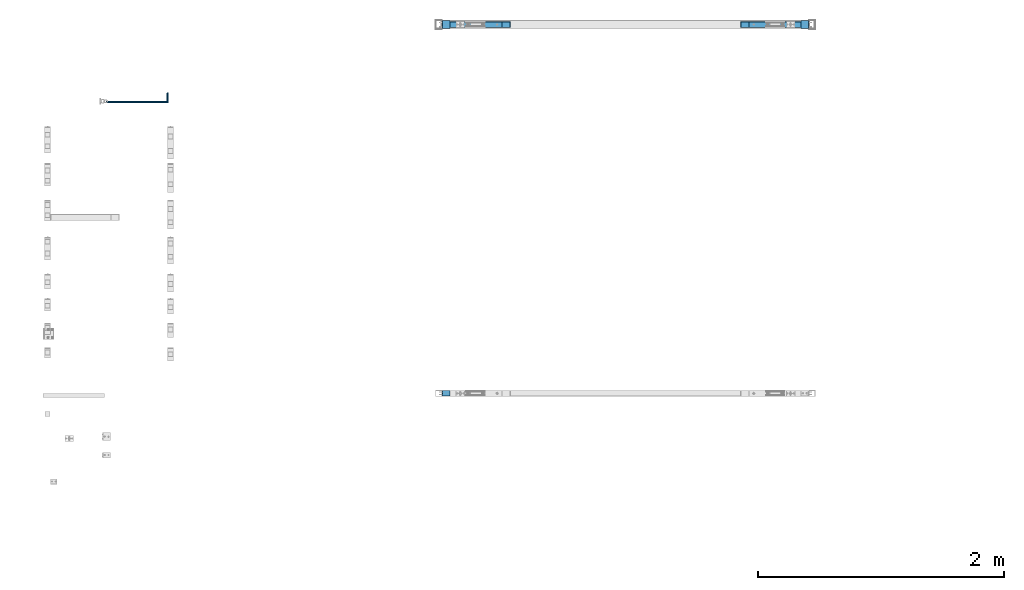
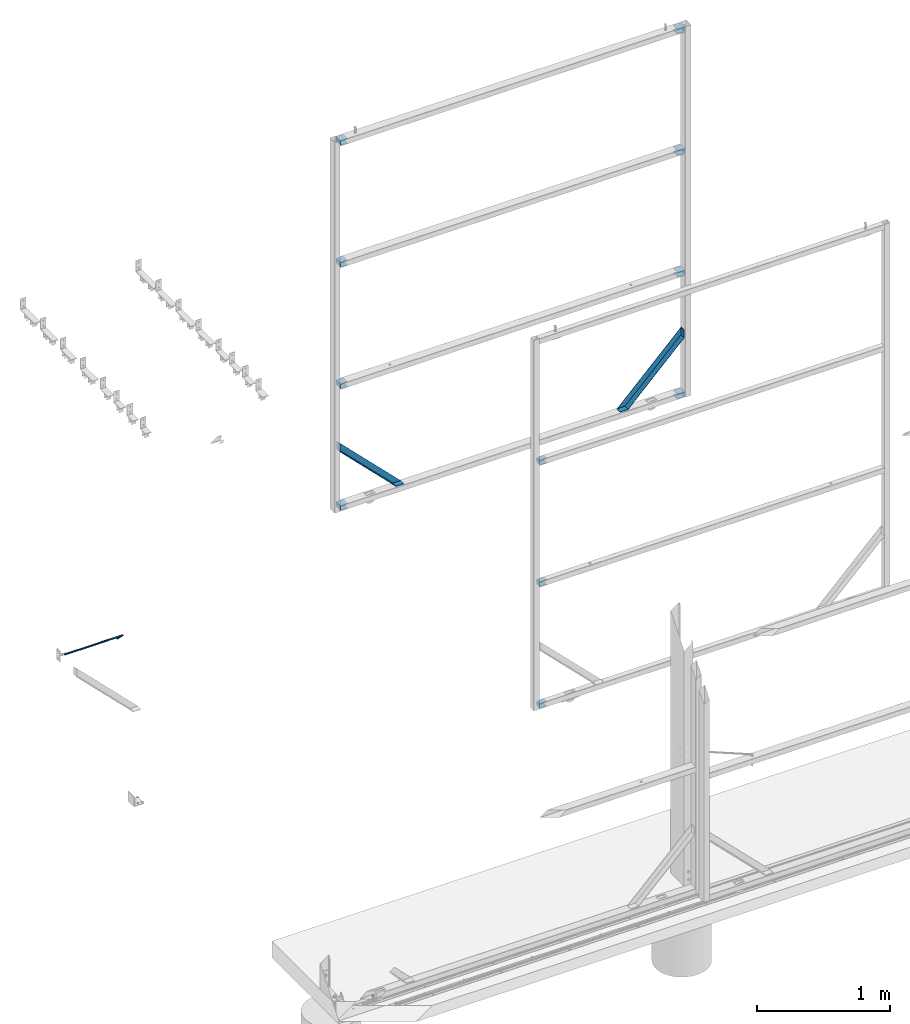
# One storey, part 89 of 91: 14 discrete accessories, 3 elements without a shape of their own.
"""IFC2X3 building model written with IfcOpenShell, lengths in millimetres."""

from ifc_helpers import new_model, si_unit, frame, origin_with_axes, place, context, subcontext, project, spatial, faceted_brep, material, type_object, element, aggregate, save


model = new_model("IFC2X3")

# Units and contexts
model_context = context("Model", 3, precision=1e-05, world=origin_with_axes())
body_context = subcontext(model_context, "Body", "Model", "MODEL_VIEW")
ifc_project = project(units=[si_unit("LENGTHUNIT", "METRE", prefix="MILLI"), si_unit("AREAUNIT", "SQUARE_METRE"), si_unit("VOLUMEUNIT", "CUBIC_METRE"), si_unit("MASSUNIT", "GRAM", prefix="KILO"), si_unit("TIMEUNIT", "SECOND"), si_unit("PLANEANGLEUNIT", "RADIAN"), si_unit("SOLIDANGLEUNIT", "STERADIAN"), si_unit("THERMODYNAMICTEMPERATUREUNIT", "DEGREE_CELSIUS"), si_unit("LUMINOUSINTENSITYUNIT", "LUMEN")], contexts=[model_context])

# Site, building, storey
site_placement = place(None, origin_with_axes())
site = spatial("IfcSite", under=ifc_project, at=site_placement, Name="Undefined", CompositionType="ELEMENT")
building_placement = place(site_placement, origin_with_axes())
building = spatial("IfcBuilding", under=site, at=building_placement, Name="Undefined", CompositionType="ELEMENT")
storey_placement = place(building_placement, origin_with_axes())
storey = spatial("IfcBuildingStorey", under=building, at=storey_placement, Name="Undefined", CompositionType="ELEMENT", Elevation=0.0)

# Assembly, discrete accessories
assembly_1_placement = place(storey_placement, origin_with_axes())
assembly_1 = element("IfcElementAssembly", 1, at=assembly_1_placement, inside=storey, Name="Sliding Door Beam", AssemblyPlace="NOTDEFINED", PredefinedType="RIGID_FRAME")
ifc_material_1 = material(Name="STEEL/450")
discrete_accessory_type_1 = type_object("IfcDiscreteAccessoryType", Name="PLATE")
discrete_accessory_1_placement = place(assembly_1_placement, frame((-113523.79, 90380.0, 28.5), z_axis=(0.0, -1.0, 0.0), x_axis=(-1.0, 0.0, 0.0)))
discrete_accessory_1 = element("IfcDiscreteAccessory", 2, at=discrete_accessory_1_placement, type_object=discrete_accessory_type_1, material=ifc_material_1, Name="PLATE", ObjectType="PLT3*44", context=body_context, shape_type="Brep", body=[
    faceted_brep([(0.0, 1.5, -22.0), (0.0, 1.5, 22.0), (56.0, 1.5, 22.0), (55.9999999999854, 1.5, -22.0), (0.0, -1.5, 22.0), (0.0, -1.5, -22.0), (56.0, -1.5, -22.0), (56.0, -1.5, 22.0), (59.0000000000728, 2.30384757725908, 22.0), (59.0000000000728, 2.30384757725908, -22.0), (60.5000000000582, -0.294228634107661, -22.0), (60.5000000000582, -0.294228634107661, 22.0), (63.794228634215, 2.99999999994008, -22.0), (63.794228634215, 2.99999999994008, 22.0), (61.1961524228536, 4.49999999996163, 22.0), (61.1961524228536, 4.49999999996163, -22.0), (65.0000000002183, 7.49999999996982, -22.0), (65.0000000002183, 7.49999999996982, 22.0), (62.0000000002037, 7.49999999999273, 22.0), (62.0, 7.5, -22.0), (62.0, 33.5, 22.0), (61.9999999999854, 33.4999999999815, -22.0), (65.0, 33.5, -22.0), (65.0, 33.5, 22.0), (61.1961524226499, 36.4999999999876, 22.0), (61.1961524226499, 36.4999999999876, -22.0), (63.7942286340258, 37.9999999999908, -22.0), (63.7942286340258, 37.9999999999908, 22.0), (60.4999999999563, 41.2942286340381, -22.0), (60.4999999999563, 41.2942286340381, 22.0), (58.9999999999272, 38.6961524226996, 22.0), (58.9999999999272, 38.6961524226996, -22.0), (55.9999999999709, 42.5000000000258, -22.0), (55.9999999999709, 42.5000000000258, 22.0), (55.9999999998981, 39.5000000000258, 22.0), (56.0, 39.5, -22.0), (0.0, 39.5, 22.0), (0.0, 39.5, -22.0), (0.0, 42.5, 22.0), (0.0, 42.5, -22.0)], [[[0, 1, 2, 3]], [[4, 5, 6, 7]], [[5, 4, 1, 0]], [[3, 2, 8, 9]], [[7, 6, 10, 11]], [[10, 12, 13, 11]], [[8, 14, 15, 9]], [[12, 16, 17, 13]], [[14, 18, 19, 15]], [[19, 18, 20, 21]], [[17, 16, 22, 23]], [[21, 20, 24, 25]], [[23, 22, 26, 27]], [[26, 28, 29, 27]], [[24, 30, 31, 25]], [[28, 32, 33, 29]], [[30, 34, 35, 31]], [[35, 34, 36, 37]], [[34, 30, 24, 20, 18, 14, 8, 2, 1, 4, 7, 11, 13, 17, 23, 27, 29, 33, 38, 36]], [[33, 32, 39, 38]], [[32, 28, 26, 22, 16, 12, 10, 6, 5, 0, 3, 9, 15, 19, 21, 25, 31, 35, 37, 39]], [[38, 39, 37, 36]]]),
])
discrete_accessory_2_placement = place(assembly_1_placement, frame((-113523.79, 90380.0, 1142.83666666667), z_axis=(0.0, -1.0, 0.0), x_axis=(-1.0, 0.0, 0.0)))
discrete_accessory_2 = element("IfcDiscreteAccessory", 3, at=discrete_accessory_2_placement, type_object=discrete_accessory_type_1, material=ifc_material_1, Name="PLATE", ObjectType="PLT3*44", context=body_context, shape_type="Brep", body=[
    faceted_brep([(0.0, 1.5, -22.0), (0.0, 1.5, 22.0), (56.0, 1.5, 22.0), (55.9999999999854, 1.5, -22.0), (0.0, -1.5, 22.0), (0.0, -1.5, -22.0), (56.0, -1.5, -22.0), (56.0, -1.5, 22.0), (59.0000000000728, 2.30384757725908, 22.0), (59.0000000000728, 2.30384757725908, -22.0), (60.5000000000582, -0.294228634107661, -22.0), (60.5000000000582, -0.294228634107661, 22.0), (63.794228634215, 2.99999999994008, -22.0), (63.794228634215, 2.99999999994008, 22.0), (61.1961524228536, 4.49999999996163, 22.0), (61.1961524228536, 4.49999999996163, -22.0), (65.0000000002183, 7.49999999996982, -22.0), (65.0000000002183, 7.49999999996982, 22.0), (62.0000000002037, 7.49999999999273, 22.0), (62.0, 7.5, -22.0), (62.0, 33.5, 22.0), (61.9999999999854, 33.4999999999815, -22.0), (65.0, 33.5, -22.0), (65.0, 33.5, 22.0), (61.1961524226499, 36.4999999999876, 22.0), (61.1961524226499, 36.4999999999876, -22.0), (63.7942286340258, 37.9999999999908, -22.0), (63.7942286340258, 37.9999999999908, 22.0), (60.4999999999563, 41.2942286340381, -22.0), (60.4999999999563, 41.2942286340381, 22.0), (58.9999999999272, 38.6961524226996, 22.0), (58.9999999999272, 38.6961524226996, -22.0), (55.9999999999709, 42.5000000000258, -22.0), (55.9999999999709, 42.5000000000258, 22.0), (55.9999999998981, 39.5000000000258, 22.0), (56.0, 39.5, -22.0), (0.0, 39.5, 22.0), (0.0, 39.5, -22.0), (0.0, 42.5, 22.0), (0.0, 42.5, -22.0)], [[[0, 1, 2, 3]], [[4, 5, 6, 7]], [[5, 4, 1, 0]], [[3, 2, 8, 9]], [[7, 6, 10, 11]], [[10, 12, 13, 11]], [[8, 14, 15, 9]], [[12, 16, 17, 13]], [[14, 18, 19, 15]], [[19, 18, 20, 21]], [[17, 16, 22, 23]], [[21, 20, 24, 25]], [[23, 22, 26, 27]], [[26, 28, 29, 27]], [[24, 30, 31, 25]], [[28, 32, 33, 29]], [[30, 34, 35, 31]], [[35, 34, 36, 37]], [[34, 30, 24, 20, 18, 14, 8, 2, 1, 4, 7, 11, 13, 17, 23, 27, 29, 33, 38, 36]], [[33, 32, 39, 38]], [[32, 28, 26, 22, 16, 12, 10, 6, 5, 0, 3, 9, 15, 19, 21, 25, 31, 35, 37, 39]], [[38, 39, 37, 36]]]),
])
discrete_accessory_3_placement = place(assembly_1_placement, frame((-113523.79, 90380.0, 2257.16333333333), z_axis=(0.0, -1.0, 0.0), x_axis=(-1.0, 0.0, 0.0)))
discrete_accessory_3 = element("IfcDiscreteAccessory", 4, at=discrete_accessory_3_placement, type_object=discrete_accessory_type_1, material=ifc_material_1, Name="PLATE", ObjectType="PLT3*44", context=body_context, shape_type="Brep", body=[
    faceted_brep([(0.0, 1.5, -22.0), (0.0, 1.5, 22.0), (56.0, 1.5, 22.0), (55.9999999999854, 1.5, -22.0), (0.0, -1.5, 22.0), (0.0, -1.5, -22.0), (56.0, -1.5, -22.0), (56.0, -1.5, 22.0), (59.0000000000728, 2.30384757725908, 22.0), (59.0000000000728, 2.30384757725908, -22.0), (60.5000000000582, -0.294228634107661, -22.0), (60.5000000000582, -0.294228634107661, 22.0), (63.794228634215, 2.99999999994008, -22.0), (63.794228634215, 2.99999999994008, 22.0), (61.1961524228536, 4.49999999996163, 22.0), (61.1961524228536, 4.49999999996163, -22.0), (65.0000000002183, 7.49999999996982, -22.0), (65.0000000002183, 7.49999999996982, 22.0), (62.0000000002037, 7.49999999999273, 22.0), (62.0, 7.5, -22.0), (62.0, 33.5, 22.0), (61.9999999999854, 33.4999999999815, -22.0), (65.0, 33.5, -22.0), (65.0, 33.5, 22.0), (61.1961524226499, 36.4999999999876, 22.0), (61.1961524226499, 36.4999999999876, -22.0), (63.7942286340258, 37.9999999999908, -22.0), (63.7942286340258, 37.9999999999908, 22.0), (60.4999999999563, 41.2942286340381, -22.0), (60.4999999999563, 41.2942286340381, 22.0), (58.9999999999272, 38.6961524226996, 22.0), (58.9999999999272, 38.6961524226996, -22.0), (55.9999999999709, 42.5000000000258, -22.0), (55.9999999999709, 42.5000000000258, 22.0), (55.9999999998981, 39.5000000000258, 22.0), (56.0, 39.5, -22.0), (0.0, 39.5, 22.0), (0.0, 39.5, -22.0), (0.0, 42.5, 22.0), (0.0, 42.5, -22.0)], [[[0, 1, 2, 3]], [[4, 5, 6, 7]], [[5, 4, 1, 0]], [[3, 2, 8, 9]], [[7, 6, 10, 11]], [[10, 12, 13, 11]], [[8, 14, 15, 9]], [[12, 16, 17, 13]], [[14, 18, 19, 15]], [[19, 18, 20, 21]], [[17, 16, 22, 23]], [[21, 20, 24, 25]], [[23, 22, 26, 27]], [[26, 28, 29, 27]], [[24, 30, 31, 25]], [[28, 32, 33, 29]], [[30, 34, 35, 31]], [[35, 34, 36, 37]], [[34, 30, 24, 20, 18, 14, 8, 2, 1, 4, 7, 11, 13, 17, 23, 27, 29, 33, 38, 36]], [[33, 32, 39, 38]], [[32, 28, 26, 22, 16, 12, 10, 6, 5, 0, 3, 9, 15, 19, 21, 25, 31, 35, 37, 39]], [[38, 39, 37, 36]]]),
])
aggregate(assembly_1, [discrete_accessory_1, discrete_accessory_2, discrete_accessory_3])

assembly_2_placement = place(storey_placement, origin_with_axes())
assembly_2 = element("IfcElementAssembly", 5, at=assembly_2_placement, inside=storey, Name="Sliding Door Beam", AssemblyPlace="NOTDEFINED", PredefinedType="RIGID_FRAME")
discrete_accessory_4_placement = place(assembly_2_placement, frame((-110666.29, 93380.0, 28.5), z_axis=(0.0, -1.0, 0.0), x_axis=(1.0, 0.0, 0.0)))
discrete_accessory_4 = element("IfcDiscreteAccessory", 6, at=discrete_accessory_4_placement, type_object=discrete_accessory_type_1, material=ifc_material_1, Name="PLATE", ObjectType="PLT3*65", context=body_context, shape_type="Brep", body=[
    faceted_brep([(0.0, 1.5, -32.5), (0.0, 1.5, 32.5), (56.0, 1.5, 32.5), (55.9999999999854, 1.5, -32.5), (0.0, -1.5, 32.5), (0.0, -1.5, -32.5), (56.0, -1.5, -32.5), (56.0, -1.5, 32.5), (60.5000000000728, 0.29422863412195, 32.5), (60.5000000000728, 0.29422863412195, -32.5), (59.0000000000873, -2.30384757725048, -32.5), (59.0000000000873, -2.30384757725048, 32.5), (61.1961524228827, -4.49999999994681, -32.5), (61.1961524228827, -4.49999999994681, 32.5), (63.7942286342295, -2.99999999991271, 32.5), (63.7942286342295, -2.99999999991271, -32.5), (62.0000000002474, -7.49999999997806, -32.5), (62.0000000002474, -7.49999999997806, 32.5), (65.0000000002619, -7.49999999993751, 32.5), (65.0, -7.5, -32.5), (65.0, -33.5, 32.5), (65.0000000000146, -33.5000000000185, -32.5), (62.0, -33.5, -32.5), (62.0, -33.5, 32.5), (63.7942286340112, -37.9999999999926, 32.5), (63.7942286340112, -37.9999999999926, -32.5), (61.1961524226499, -36.4999999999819, -32.5), (61.1961524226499, -36.4999999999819, 32.5), (58.9999999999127, -38.6961524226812, -32.5), (58.9999999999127, -38.6961524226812, 32.5), (60.4999999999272, -41.2942286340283, 32.5), (60.4999999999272, -41.2942286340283, -32.5), (55.9999999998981, -39.4999999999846, -32.5), (55.9999999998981, -39.4999999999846, 32.5), (55.9999999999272, -42.4999999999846, 32.5), (56.0, -42.5, -32.5), (0.0, -42.5, 32.5), (0.0, -42.5, -32.5), (0.0, -39.5, 32.5), (0.0, -39.5, -32.5)], [[[0, 1, 2, 3]], [[4, 5, 6, 7]], [[5, 4, 1, 0]], [[3, 2, 8, 9]], [[7, 6, 10, 11]], [[10, 12, 13, 11]], [[8, 14, 15, 9]], [[12, 16, 17, 13]], [[14, 18, 19, 15]], [[19, 18, 20, 21]], [[17, 16, 22, 23]], [[21, 20, 24, 25]], [[23, 22, 26, 27]], [[26, 28, 29, 27]], [[24, 30, 31, 25]], [[28, 32, 33, 29]], [[30, 34, 35, 31]], [[35, 34, 36, 37]], [[34, 30, 24, 20, 18, 14, 8, 2, 1, 4, 7, 11, 13, 17, 23, 27, 29, 33, 38, 36]], [[33, 32, 39, 38]], [[32, 28, 26, 22, 16, 12, 10, 6, 5, 0, 3, 9, 15, 19, 21, 25, 31, 35, 37, 39]], [[38, 39, 37, 36]]]),
])
discrete_accessory_5_placement = place(assembly_2_placement, frame((-113523.79, 93380.0, 28.5), z_axis=(0.0, -1.0, 0.0), x_axis=(-1.0, 0.0, 0.0)))
discrete_accessory_5 = element("IfcDiscreteAccessory", 7, at=discrete_accessory_5_placement, type_object=discrete_accessory_type_1, material=ifc_material_1, Name="PLATE", ObjectType="PLT3*65", context=body_context, shape_type="Brep", body=[
    faceted_brep([(0.0, 1.5, -32.5), (0.0, 1.5, 32.5), (56.0, 1.5, 32.5), (55.9999999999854, 1.5, -32.5), (0.0, -1.5, 32.5), (0.0, -1.5, -32.5), (56.0, -1.5, -32.5), (56.0, -1.5, 32.5), (59.0000000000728, 2.30384757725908, 32.5), (59.0000000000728, 2.30384757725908, -32.5), (60.5000000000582, -0.294228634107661, -32.5), (60.5000000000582, -0.294228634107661, 32.5), (63.794228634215, 2.99999999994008, -32.5), (63.794228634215, 2.99999999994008, 32.5), (61.1961524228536, 4.49999999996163, 32.5), (61.1961524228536, 4.49999999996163, -32.5), (65.0000000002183, 7.49999999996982, -32.5), (65.0000000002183, 7.49999999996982, 32.5), (62.0000000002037, 7.49999999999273, 32.5), (62.0, 7.5, -32.5), (62.0, 33.5, 32.5), (61.9999999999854, 33.4999999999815, -32.5), (65.0, 33.5, -32.5), (65.0, 33.5, 32.5), (61.1961524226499, 36.4999999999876, 32.5), (61.1961524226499, 36.4999999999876, -32.5), (63.7942286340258, 37.9999999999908, -32.5), (63.7942286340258, 37.9999999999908, 32.5), (60.4999999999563, 41.2942286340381, -32.5), (60.4999999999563, 41.2942286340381, 32.5), (58.9999999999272, 38.6961524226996, 32.5), (58.9999999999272, 38.6961524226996, -32.5), (55.9999999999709, 42.5000000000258, -32.5), (55.9999999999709, 42.5000000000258, 32.5), (55.9999999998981, 39.5000000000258, 32.5), (56.0, 39.5, -32.5), (0.0, 39.5, 32.5), (0.0, 39.5, -32.5), (0.0, 42.5, 32.5), (0.0, 42.5, -32.5)], [[[0, 1, 2, 3]], [[4, 5, 6, 7]], [[5, 4, 1, 0]], [[3, 2, 8, 9]], [[7, 6, 10, 11]], [[10, 12, 13, 11]], [[8, 14, 15, 9]], [[12, 16, 17, 13]], [[14, 18, 19, 15]], [[19, 18, 20, 21]], [[17, 16, 22, 23]], [[21, 20, 24, 25]], [[23, 22, 26, 27]], [[26, 28, 29, 27]], [[24, 30, 31, 25]], [[28, 32, 33, 29]], [[30, 34, 35, 31]], [[35, 34, 36, 37]], [[34, 30, 24, 20, 18, 14, 8, 2, 1, 4, 7, 11, 13, 17, 23, 27, 29, 33, 38, 36]], [[33, 32, 39, 38]], [[32, 28, 26, 22, 16, 12, 10, 6, 5, 0, 3, 9, 15, 19, 21, 25, 31, 35, 37, 39]], [[38, 39, 37, 36]]]),
])
discrete_accessory_6_placement = place(assembly_2_placement, frame((-110666.29, 93380.0, 1142.83666666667), z_axis=(0.0, -1.0, 0.0), x_axis=(1.0, 0.0, 0.0)))
discrete_accessory_6 = element("IfcDiscreteAccessory", 8, at=discrete_accessory_6_placement, type_object=discrete_accessory_type_1, material=ifc_material_1, Name="PLATE", ObjectType="PLT3*65", context=body_context, shape_type="Brep", body=[
    faceted_brep([(0.0, 1.5, -32.5), (0.0, 1.5, 32.5), (56.0, 1.5, 32.5), (55.9999999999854, 1.5, -32.5), (0.0, -1.5, 32.5), (0.0, -1.5, -32.5), (56.0, -1.5, -32.5), (56.0, -1.5, 32.5), (60.5000000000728, 0.29422863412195, 32.5), (60.5000000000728, 0.29422863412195, -32.5), (59.0000000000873, -2.30384757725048, -32.5), (59.0000000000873, -2.30384757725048, 32.5), (61.1961524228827, -4.49999999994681, -32.5), (61.1961524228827, -4.49999999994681, 32.5), (63.7942286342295, -2.99999999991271, 32.5), (63.7942286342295, -2.99999999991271, -32.5), (62.0000000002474, -7.49999999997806, -32.5), (62.0000000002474, -7.49999999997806, 32.5), (65.0000000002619, -7.49999999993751, 32.5), (65.0, -7.5, -32.5), (65.0, -33.5, 32.5), (65.0000000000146, -33.5000000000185, -32.5), (62.0, -33.5, -32.5), (62.0, -33.5, 32.5), (63.7942286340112, -37.9999999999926, 32.5), (63.7942286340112, -37.9999999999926, -32.5), (61.1961524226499, -36.4999999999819, -32.5), (61.1961524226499, -36.4999999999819, 32.5), (58.9999999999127, -38.6961524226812, -32.5), (58.9999999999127, -38.6961524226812, 32.5), (60.4999999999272, -41.2942286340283, 32.5), (60.4999999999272, -41.2942286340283, -32.5), (55.9999999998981, -39.4999999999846, -32.5), (55.9999999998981, -39.4999999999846, 32.5), (55.9999999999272, -42.4999999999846, 32.5), (56.0, -42.5, -32.5), (0.0, -42.5, 32.5), (0.0, -42.5, -32.5), (0.0, -39.5, 32.5), (0.0, -39.5, -32.5)], [[[0, 1, 2, 3]], [[4, 5, 6, 7]], [[5, 4, 1, 0]], [[3, 2, 8, 9]], [[7, 6, 10, 11]], [[10, 12, 13, 11]], [[8, 14, 15, 9]], [[12, 16, 17, 13]], [[14, 18, 19, 15]], [[19, 18, 20, 21]], [[17, 16, 22, 23]], [[21, 20, 24, 25]], [[23, 22, 26, 27]], [[26, 28, 29, 27]], [[24, 30, 31, 25]], [[28, 32, 33, 29]], [[30, 34, 35, 31]], [[35, 34, 36, 37]], [[34, 30, 24, 20, 18, 14, 8, 2, 1, 4, 7, 11, 13, 17, 23, 27, 29, 33, 38, 36]], [[33, 32, 39, 38]], [[32, 28, 26, 22, 16, 12, 10, 6, 5, 0, 3, 9, 15, 19, 21, 25, 31, 35, 37, 39]], [[38, 39, 37, 36]]]),
])
discrete_accessory_7_placement = place(assembly_2_placement, frame((-113523.79, 93380.0, 1142.83666666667), z_axis=(0.0, -1.0, 0.0), x_axis=(-1.0, 0.0, 0.0)))
discrete_accessory_7 = element("IfcDiscreteAccessory", 9, at=discrete_accessory_7_placement, type_object=discrete_accessory_type_1, material=ifc_material_1, Name="PLATE", ObjectType="PLT3*65", context=body_context, shape_type="Brep", body=[
    faceted_brep([(0.0, 1.5, -32.5), (0.0, 1.5, 32.5), (56.0, 1.5, 32.5), (55.9999999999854, 1.5, -32.5), (0.0, -1.5, 32.5), (0.0, -1.5, -32.5), (56.0, -1.5, -32.5), (56.0, -1.5, 32.5), (59.0000000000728, 2.30384757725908, 32.5), (59.0000000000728, 2.30384757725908, -32.5), (60.5000000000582, -0.294228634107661, -32.5), (60.5000000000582, -0.294228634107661, 32.5), (63.794228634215, 2.99999999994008, -32.5), (63.794228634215, 2.99999999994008, 32.5), (61.1961524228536, 4.49999999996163, 32.5), (61.1961524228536, 4.49999999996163, -32.5), (65.0000000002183, 7.49999999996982, -32.5), (65.0000000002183, 7.49999999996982, 32.5), (62.0000000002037, 7.49999999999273, 32.5), (62.0, 7.5, -32.5), (62.0, 33.5, 32.5), (61.9999999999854, 33.4999999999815, -32.5), (65.0, 33.5, -32.5), (65.0, 33.5, 32.5), (61.1961524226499, 36.4999999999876, 32.5), (61.1961524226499, 36.4999999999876, -32.5), (63.7942286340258, 37.9999999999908, -32.5), (63.7942286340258, 37.9999999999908, 32.5), (60.4999999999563, 41.2942286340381, -32.5), (60.4999999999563, 41.2942286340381, 32.5), (58.9999999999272, 38.6961524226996, 32.5), (58.9999999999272, 38.6961524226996, -32.5), (55.9999999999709, 42.5000000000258, -32.5), (55.9999999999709, 42.5000000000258, 32.5), (55.9999999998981, 39.5000000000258, 32.5), (56.0, 39.5, -32.5), (0.0, 39.5, 32.5), (0.0, 39.5, -32.5), (0.0, 42.5, 32.5), (0.0, 42.5, -32.5)], [[[0, 1, 2, 3]], [[4, 5, 6, 7]], [[5, 4, 1, 0]], [[3, 2, 8, 9]], [[7, 6, 10, 11]], [[10, 12, 13, 11]], [[8, 14, 15, 9]], [[12, 16, 17, 13]], [[14, 18, 19, 15]], [[19, 18, 20, 21]], [[17, 16, 22, 23]], [[21, 20, 24, 25]], [[23, 22, 26, 27]], [[26, 28, 29, 27]], [[24, 30, 31, 25]], [[28, 32, 33, 29]], [[30, 34, 35, 31]], [[35, 34, 36, 37]], [[34, 30, 24, 20, 18, 14, 8, 2, 1, 4, 7, 11, 13, 17, 23, 27, 29, 33, 38, 36]], [[33, 32, 39, 38]], [[32, 28, 26, 22, 16, 12, 10, 6, 5, 0, 3, 9, 15, 19, 21, 25, 31, 35, 37, 39]], [[38, 39, 37, 36]]]),
])
discrete_accessory_8_placement = place(assembly_2_placement, frame((-110666.29, 93380.0, 2257.16333333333), z_axis=(0.0, -1.0, 0.0), x_axis=(1.0, 0.0, 0.0)))
discrete_accessory_8 = element("IfcDiscreteAccessory", 10, at=discrete_accessory_8_placement, type_object=discrete_accessory_type_1, material=ifc_material_1, Name="PLATE", ObjectType="PLT3*65", context=body_context, shape_type="Brep", body=[
    faceted_brep([(0.0, 1.5, -32.5), (0.0, 1.5, 32.5), (56.0, 1.5, 32.5), (55.9999999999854, 1.5, -32.5), (0.0, -1.5, 32.5), (0.0, -1.5, -32.5), (56.0, -1.5, -32.5), (56.0, -1.5, 32.5), (60.5000000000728, 0.29422863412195, 32.5), (60.5000000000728, 0.29422863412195, -32.5), (59.0000000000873, -2.30384757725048, -32.5), (59.0000000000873, -2.30384757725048, 32.5), (61.1961524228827, -4.49999999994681, -32.5), (61.1961524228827, -4.49999999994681, 32.5), (63.7942286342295, -2.99999999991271, 32.5), (63.7942286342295, -2.99999999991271, -32.5), (62.0000000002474, -7.49999999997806, -32.5), (62.0000000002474, -7.49999999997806, 32.5), (65.0000000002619, -7.49999999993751, 32.5), (65.0, -7.5, -32.5), (65.0, -33.5, 32.5), (65.0000000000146, -33.5000000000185, -32.5), (62.0, -33.5, -32.5), (62.0, -33.5, 32.5), (63.7942286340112, -37.9999999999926, 32.5), (63.7942286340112, -37.9999999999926, -32.5), (61.1961524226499, -36.4999999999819, -32.5), (61.1961524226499, -36.4999999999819, 32.5), (58.9999999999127, -38.6961524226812, -32.5), (58.9999999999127, -38.6961524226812, 32.5), (60.4999999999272, -41.2942286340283, 32.5), (60.4999999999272, -41.2942286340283, -32.5), (55.9999999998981, -39.4999999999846, -32.5), (55.9999999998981, -39.4999999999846, 32.5), (55.9999999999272, -42.4999999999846, 32.5), (56.0, -42.5, -32.5), (0.0, -42.5, 32.5), (0.0, -42.5, -32.5), (0.0, -39.5, 32.5), (0.0, -39.5, -32.5)], [[[0, 1, 2, 3]], [[4, 5, 6, 7]], [[5, 4, 1, 0]], [[3, 2, 8, 9]], [[7, 6, 10, 11]], [[10, 12, 13, 11]], [[8, 14, 15, 9]], [[12, 16, 17, 13]], [[14, 18, 19, 15]], [[19, 18, 20, 21]], [[17, 16, 22, 23]], [[21, 20, 24, 25]], [[23, 22, 26, 27]], [[26, 28, 29, 27]], [[24, 30, 31, 25]], [[28, 32, 33, 29]], [[30, 34, 35, 31]], [[35, 34, 36, 37]], [[34, 30, 24, 20, 18, 14, 8, 2, 1, 4, 7, 11, 13, 17, 23, 27, 29, 33, 38, 36]], [[33, 32, 39, 38]], [[32, 28, 26, 22, 16, 12, 10, 6, 5, 0, 3, 9, 15, 19, 21, 25, 31, 35, 37, 39]], [[38, 39, 37, 36]]]),
])
discrete_accessory_9_placement = place(assembly_2_placement, frame((-113523.79, 93380.0, 2257.16333333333), z_axis=(0.0, -1.0, 0.0), x_axis=(-1.0, 0.0, 0.0)))
discrete_accessory_9 = element("IfcDiscreteAccessory", 11, at=discrete_accessory_9_placement, type_object=discrete_accessory_type_1, material=ifc_material_1, Name="PLATE", ObjectType="PLT3*65", context=body_context, shape_type="Brep", body=[
    faceted_brep([(0.0, 1.5, -32.5), (0.0, 1.5, 32.5), (56.0, 1.5, 32.5), (55.9999999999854, 1.5, -32.5), (0.0, -1.5, 32.5), (0.0, -1.5, -32.5), (56.0, -1.5, -32.5), (56.0, -1.5, 32.5), (59.0000000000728, 2.30384757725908, 32.5), (59.0000000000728, 2.30384757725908, -32.5), (60.5000000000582, -0.294228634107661, -32.5), (60.5000000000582, -0.294228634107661, 32.5), (63.794228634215, 2.99999999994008, -32.5), (63.794228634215, 2.99999999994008, 32.5), (61.1961524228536, 4.49999999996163, 32.5), (61.1961524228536, 4.49999999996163, -32.5), (65.0000000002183, 7.49999999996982, -32.5), (65.0000000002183, 7.49999999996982, 32.5), (62.0000000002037, 7.49999999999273, 32.5), (62.0, 7.5, -32.5), (62.0, 33.5, 32.5), (61.9999999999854, 33.4999999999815, -32.5), (65.0, 33.5, -32.5), (65.0, 33.5, 32.5), (61.1961524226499, 36.4999999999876, 32.5), (61.1961524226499, 36.4999999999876, -32.5), (63.7942286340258, 37.9999999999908, -32.5), (63.7942286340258, 37.9999999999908, 32.5), (60.4999999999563, 41.2942286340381, -32.5), (60.4999999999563, 41.2942286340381, 32.5), (58.9999999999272, 38.6961524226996, 32.5), (58.9999999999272, 38.6961524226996, -32.5), (55.9999999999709, 42.5000000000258, -32.5), (55.9999999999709, 42.5000000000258, 32.5), (55.9999999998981, 39.5000000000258, 32.5), (56.0, 39.5, -32.5), (0.0, 39.5, 32.5), (0.0, 39.5, -32.5), (0.0, 42.5, 32.5), (0.0, 42.5, -32.5)], [[[0, 1, 2, 3]], [[4, 5, 6, 7]], [[5, 4, 1, 0]], [[3, 2, 8, 9]], [[7, 6, 10, 11]], [[10, 12, 13, 11]], [[8, 14, 15, 9]], [[12, 16, 17, 13]], [[14, 18, 19, 15]], [[19, 18, 20, 21]], [[17, 16, 22, 23]], [[21, 20, 24, 25]], [[23, 22, 26, 27]], [[26, 28, 29, 27]], [[24, 30, 31, 25]], [[28, 32, 33, 29]], [[30, 34, 35, 31]], [[35, 34, 36, 37]], [[34, 30, 24, 20, 18, 14, 8, 2, 1, 4, 7, 11, 13, 17, 23, 27, 29, 33, 38, 36]], [[33, 32, 39, 38]], [[32, 28, 26, 22, 16, 12, 10, 6, 5, 0, 3, 9, 15, 19, 21, 25, 31, 35, 37, 39]], [[38, 39, 37, 36]]]),
])
discrete_accessory_10_placement = place(assembly_2_placement, frame((-110666.29, 93380.0, 3371.5), z_axis=(0.0, -1.0, 0.0), x_axis=(1.0, 0.0, 0.0)))
discrete_accessory_10 = element("IfcDiscreteAccessory", 12, at=discrete_accessory_10_placement, type_object=discrete_accessory_type_1, material=ifc_material_1, Name="PLATE", ObjectType="PLT3*65", context=body_context, shape_type="Brep", body=[
    faceted_brep([(0.0, 1.5, -32.5), (0.0, 1.5, 32.5), (56.0, 1.5, 32.5), (55.9999999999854, 1.5, -32.5), (0.0, -1.5, 32.5), (0.0, -1.5, -32.5), (56.0, -1.5, -32.5), (56.0, -1.5, 32.5), (60.5000000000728, 0.29422863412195, 32.5), (60.5000000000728, 0.29422863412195, -32.5), (59.0000000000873, -2.30384757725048, -32.5), (59.0000000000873, -2.30384757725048, 32.5), (61.1961524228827, -4.49999999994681, -32.5), (61.1961524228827, -4.49999999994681, 32.5), (63.7942286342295, -2.99999999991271, 32.5), (63.7942286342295, -2.99999999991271, -32.5), (62.0000000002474, -7.49999999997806, -32.5), (62.0000000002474, -7.49999999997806, 32.5), (65.0000000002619, -7.49999999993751, 32.5), (65.0, -7.5, -32.5), (65.0, -33.5, 32.5), (65.0000000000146, -33.5000000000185, -32.5), (62.0, -33.5, -32.5), (62.0, -33.5, 32.5), (63.7942286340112, -37.9999999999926, 32.5), (63.7942286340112, -37.9999999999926, -32.5), (61.1961524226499, -36.4999999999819, -32.5), (61.1961524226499, -36.4999999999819, 32.5), (58.9999999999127, -38.6961524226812, -32.5), (58.9999999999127, -38.6961524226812, 32.5), (60.4999999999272, -41.2942286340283, 32.5), (60.4999999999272, -41.2942286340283, -32.5), (55.9999999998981, -39.4999999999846, -32.5), (55.9999999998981, -39.4999999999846, 32.5), (55.9999999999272, -42.4999999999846, 32.5), (56.0, -42.5, -32.5), (0.0, -42.5, 32.5), (0.0, -42.5, -32.5), (0.0, -39.5, 32.5), (0.0, -39.5, -32.5)], [[[0, 1, 2, 3]], [[4, 5, 6, 7]], [[5, 4, 1, 0]], [[3, 2, 8, 9]], [[7, 6, 10, 11]], [[10, 12, 13, 11]], [[8, 14, 15, 9]], [[12, 16, 17, 13]], [[14, 18, 19, 15]], [[19, 18, 20, 21]], [[17, 16, 22, 23]], [[21, 20, 24, 25]], [[23, 22, 26, 27]], [[26, 28, 29, 27]], [[24, 30, 31, 25]], [[28, 32, 33, 29]], [[30, 34, 35, 31]], [[35, 34, 36, 37]], [[34, 30, 24, 20, 18, 14, 8, 2, 1, 4, 7, 11, 13, 17, 23, 27, 29, 33, 38, 36]], [[33, 32, 39, 38]], [[32, 28, 26, 22, 16, 12, 10, 6, 5, 0, 3, 9, 15, 19, 21, 25, 31, 35, 37, 39]], [[38, 39, 37, 36]]]),
])
discrete_accessory_11_placement = place(assembly_2_placement, frame((-113523.79, 93380.0, 3371.5), z_axis=(0.0, -1.0, 0.0), x_axis=(-1.0, 0.0, 0.0)))
discrete_accessory_11 = element("IfcDiscreteAccessory", 13, at=discrete_accessory_11_placement, type_object=discrete_accessory_type_1, material=ifc_material_1, Name="PLATE", ObjectType="PLT3*65", context=body_context, shape_type="Brep", body=[
    faceted_brep([(0.0, 1.5, -32.5), (0.0, 1.5, 32.5), (56.0, 1.5, 32.5), (55.9999999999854, 1.5, -32.5), (0.0, -1.5, 32.5), (0.0, -1.5, -32.5), (56.0, -1.5, -32.5), (56.0, -1.5, 32.5), (59.0000000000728, 2.30384757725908, 32.5), (59.0000000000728, 2.30384757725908, -32.5), (60.5000000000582, -0.294228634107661, -32.5), (60.5000000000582, -0.294228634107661, 32.5), (63.794228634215, 2.99999999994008, -32.5), (63.794228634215, 2.99999999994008, 32.5), (61.1961524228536, 4.49999999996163, 32.5), (61.1961524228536, 4.49999999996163, -32.5), (65.0000000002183, 7.49999999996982, -32.5), (65.0000000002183, 7.49999999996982, 32.5), (62.0000000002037, 7.49999999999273, 32.5), (62.0, 7.5, -32.5), (62.0, 33.5, 32.5), (61.9999999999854, 33.4999999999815, -32.5), (65.0, 33.5, -32.5), (65.0, 33.5, 32.5), (61.1961524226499, 36.4999999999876, 32.5), (61.1961524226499, 36.4999999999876, -32.5), (63.7942286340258, 37.9999999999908, -32.5), (63.7942286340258, 37.9999999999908, 32.5), (60.4999999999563, 41.2942286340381, -32.5), (60.4999999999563, 41.2942286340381, 32.5), (58.9999999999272, 38.6961524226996, 32.5), (58.9999999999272, 38.6961524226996, -32.5), (55.9999999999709, 42.5000000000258, -32.5), (55.9999999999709, 42.5000000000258, 32.5), (55.9999999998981, 39.5000000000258, 32.5), (56.0, 39.5, -32.5), (0.0, 39.5, 32.5), (0.0, 39.5, -32.5), (0.0, 42.5, 32.5), (0.0, 42.5, -32.5)], [[[0, 1, 2, 3]], [[4, 5, 6, 7]], [[5, 4, 1, 0]], [[3, 2, 8, 9]], [[7, 6, 10, 11]], [[10, 12, 13, 11]], [[8, 14, 15, 9]], [[12, 16, 17, 13]], [[14, 18, 19, 15]], [[19, 18, 20, 21]], [[17, 16, 22, 23]], [[21, 20, 24, 25]], [[23, 22, 26, 27]], [[26, 28, 29, 27]], [[24, 30, 31, 25]], [[28, 32, 33, 29]], [[30, 34, 35, 31]], [[35, 34, 36, 37]], [[34, 30, 24, 20, 18, 14, 8, 2, 1, 4, 7, 11, 13, 17, 23, 27, 29, 33, 38, 36]], [[33, 32, 39, 38]], [[32, 28, 26, 22, 16, 12, 10, 6, 5, 0, 3, 9, 15, 19, 21, 25, 31, 35, 37, 39]], [[38, 39, 37, 36]]]),
])
ifc_material_2 = material(Name="STEEL/300PLUS")
discrete_accessory_type_2 = type_object("IfcDiscreteAccessoryType", Name="Angle Brace")
discrete_accessory_12_placement = place(assembly_2_placement, frame((-111159.904935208, 93380.0, 57.9968313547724), z_axis=(0.0, 0.0, 1.0), x_axis=(1.0, 0.0, 0.0)))
discrete_accessory_12 = element("IfcDiscreteAccessory", 14, at=discrete_accessory_12_placement, type_object=discrete_accessory_type_2, material=ifc_material_2, Name="Angle Brace", ObjectType="EA50*50*3", context=body_context, shape_type="Brep", body=[
    faceted_brep([(70.7106780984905, 25.0, -24.9999999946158), (70.7106780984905, -25.0, -24.9999999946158), (1.90630089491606e-09, -25.0, -25.0), (1.90630089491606e-09, 25.0, -25.0), (558.614501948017, 25.0, 462.903808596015), (558.614501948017, -25.0, 462.903808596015), (558.614501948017, 25.0, 533.614501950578), (558.614501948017, -25.0, 533.614501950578), (555.614501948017, -25.0, 464.146449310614), (69.4680374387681, -25.0, -21.9999999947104), (2.999998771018, -25.0, -21.9999999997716), (555.614501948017, -25.0, 530.614483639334), (2.999998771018, 22.0, -21.9999999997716), (50.0000004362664, 22.0, 25.0000000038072), (50.0000004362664, 25.0, 25.0000000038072), (69.4680374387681, 22.0, -21.9999999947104), (555.614501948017, 22.0, 464.146449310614), (555.614501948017, 22.0, 530.614483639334), (508.614501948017, 22.0, 483.614487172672), (508.614501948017, 25.0, 483.614487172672)], [[[0, 1, 2, 3]], [[1, 0, 4, 5]], [[5, 4, 6, 7]], [[8, 9, 10, 2, 1, 5, 7, 11]], [[2, 10, 12, 13, 14, 3]], [[9, 15, 12, 10]], [[13, 12, 15, 16, 17, 18]], [[14, 13, 18, 19]], [[4, 0, 3, 14, 19, 6]], [[18, 17, 11, 7, 6, 19]], [[16, 8, 11, 17]], [[15, 9, 8, 16]]]),
])
discrete_accessory_13_placement = place(assembly_2_placement, frame((-113563.793168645, 93380.0, 591.614935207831), z_axis=(1.0, 0.0, 0.0), x_axis=(0.0, 0.0, -1.0)))
discrete_accessory_13 = element("IfcDiscreteAccessory", 15, at=discrete_accessory_13_placement, type_object=discrete_accessory_type_2, material=ifc_material_2, Name="Angle Brace", ObjectType="EA50*50*3", context=body_context, shape_type="Brep", body=[
    faceted_brep([(70.7106780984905, 25.0, -24.9999999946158), (70.7106780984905, -25.0, -24.9999999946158), (1.90630089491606e-09, -25.0, -25.0), (1.90630089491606e-09, 25.0, -25.0), (558.614501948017, 25.0, 462.903808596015), (558.614501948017, -25.0, 462.903808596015), (558.614501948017, 25.0, 533.614501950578), (558.614501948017, -25.0, 533.614501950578), (555.614501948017, -25.0, 464.146449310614), (69.4680374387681, -25.0, -21.9999999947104), (2.999998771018, -25.0, -21.9999999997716), (555.614501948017, -25.0, 530.614483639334), (2.999998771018, 22.0, -21.9999999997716), (50.0000004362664, 22.0, 25.0000000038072), (50.0000004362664, 25.0, 25.0000000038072), (69.4680374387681, 22.0, -21.9999999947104), (555.614501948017, 22.0, 464.146449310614), (555.614501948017, 22.0, 530.614483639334), (508.614501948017, 22.0, 483.614487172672), (508.614501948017, 25.0, 483.614487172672)], [[[0, 1, 2, 3]], [[1, 0, 4, 5]], [[5, 4, 6, 7]], [[8, 9, 10, 2, 1, 5, 7, 11]], [[2, 10, 12, 13, 14, 3]], [[9, 15, 12, 10]], [[13, 12, 15, 16, 17, 18]], [[14, 13, 18, 19]], [[4, 0, 3, 14, 19, 6]], [[18, 17, 11, 7, 6, 19]], [[16, 8, 11, 17]], [[15, 9, 8, 16]]]),
])
aggregate(assembly_2, [discrete_accessory_4, discrete_accessory_5, discrete_accessory_6, discrete_accessory_7, discrete_accessory_8, discrete_accessory_9, discrete_accessory_10, discrete_accessory_11, discrete_accessory_12, discrete_accessory_13])

# Assembly, discrete accessory
assembly_3_placement = place(storey_placement, origin_with_axes())
assembly_3 = element("IfcElementAssembly", 16, at=assembly_3_placement, inside=storey, Name="PLATE", AssemblyPlace="NOTDEFINED", PredefinedType="RIGID_FRAME")
ifc_material_3 = material(Name="STEEL/250")
discrete_accessory_type_3 = type_object("IfcDiscreteAccessoryType", Name="ROD")
discrete_accessory_14_placement = place(assembly_3_placement, frame((-115819.551516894, 92821.615228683, -82.7223361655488), z_axis=(1.0, 0.0, 0.0), x_axis=(0.0, -0.707106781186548, 0.707106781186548)))
discrete_accessory_14 = element("IfcDiscreteAccessory", 17, at=discrete_accessory_14_placement, type_object=discrete_accessory_type_3, material=ifc_material_3, Name="ROD", ObjectType="D12", context=body_context, shape_type="Brep", body=[
    faceted_brep([(0.0, -6.0, 0.0), (-1.13686837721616e-12, -4.24264068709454, -4.24264068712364), (93.5000000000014, -4.24264068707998, -4.2426406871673), (93.5000000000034, -5.99999999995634, -2.91038304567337e-11), (-2.72848410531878e-12, 1.45519152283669e-11, -5.99999999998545), (93.5, 2.91038304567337e-11, -6.00000000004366), (-2.50111042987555e-12, 4.24264068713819, -4.24264068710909), (93.5000000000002, 4.2426406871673, -4.24264068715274), (0.0, 6.00000000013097, 0.0), (93.5000000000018, 6.0000000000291, -4.36557456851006e-11), (1.13686837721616e-12, 4.24264068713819, 4.24264068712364), (93.5000000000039, 4.24264068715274, 4.24264068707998), (2.72848410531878e-12, 1.45519152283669e-11, 5.99999999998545), (93.5000000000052, 4.36557456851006e-11, 5.99999999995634), (2.50111042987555e-12, -4.24264068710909, 4.24264068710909), (93.500000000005, -4.24264068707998, 4.24264068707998), (95.7573593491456, -4.24264068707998, -4.2426406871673), (100.000000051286, -5.9999999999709, -4.36557456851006e-11), (94.0, 2.91038304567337e-11, -6.00000000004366), (95.7573592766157, 4.2426406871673, -4.24264068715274), (99.9999999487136, 6.0000000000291, -4.36557456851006e-11), (104.242640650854, 4.24264068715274, 4.24264068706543), (106.0, 4.36557456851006e-11, 5.99999999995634), (104.242640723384, -4.24264068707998, 4.24264068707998), (95.7573593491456, -4.24264066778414, -6.50000003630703), (100.000000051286, -5.99999994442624, -6.50000005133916), (94.0, 4.32191882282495e-09, -6.50000000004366), (95.7573592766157, 4.24264070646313, -6.49999996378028), (99.9999999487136, 6.00000005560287, -6.49999994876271), (104.242640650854, 4.24264077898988, -6.49999996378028), (106.0, 1.06883817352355e-07, -6.50000000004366), (104.242640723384, -4.2426405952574, -6.50000003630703), (95.7573593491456, -4.24263644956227, -499.999970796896), (100.000000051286, -5.99999572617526, -499.999970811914), (94.0, 4.22252924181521e-06, -499.999970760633), (95.7573592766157, 4.24264492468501, -499.99997072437), (99.9999999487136, 6.00000427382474, -499.999970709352), (104.242640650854, 4.24264499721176, -499.999970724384), (106.0, 4.32510569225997e-06, -499.999970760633), (104.242640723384, -4.24263637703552, -499.999970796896)], [[[0, 1, 2, 3]], [[1, 4, 5, 2]], [[4, 6, 7, 5]], [[6, 8, 9, 7]], [[8, 10, 11, 9]], [[10, 12, 13, 11]], [[12, 14, 15, 13]], [[14, 0, 3, 15]], [[14, 12, 10, 8, 6, 4, 1, 0]], [[3, 2, 16, 17]], [[2, 5, 18, 16]], [[5, 7, 19, 18]], [[7, 9, 20, 19]], [[9, 11, 21, 20]], [[11, 13, 22, 21]], [[13, 15, 23, 22]], [[15, 3, 17, 23]], [[17, 16, 24, 25]], [[16, 18, 26, 24]], [[18, 19, 27, 26]], [[19, 20, 28, 27]], [[20, 21, 29, 28]], [[21, 22, 30, 29]], [[22, 23, 31, 30]], [[23, 17, 25, 31]], [[25, 24, 32, 33]], [[24, 26, 34, 32]], [[26, 27, 35, 34]], [[27, 28, 36, 35]], [[28, 29, 37, 36]], [[29, 30, 38, 37]], [[30, 31, 39, 38]], [[31, 25, 33, 39]], [[34, 35, 36, 37, 38, 39, 33, 32]]]),
])
aggregate(assembly_3, [discrete_accessory_14])

save(model, "model.ifc")
